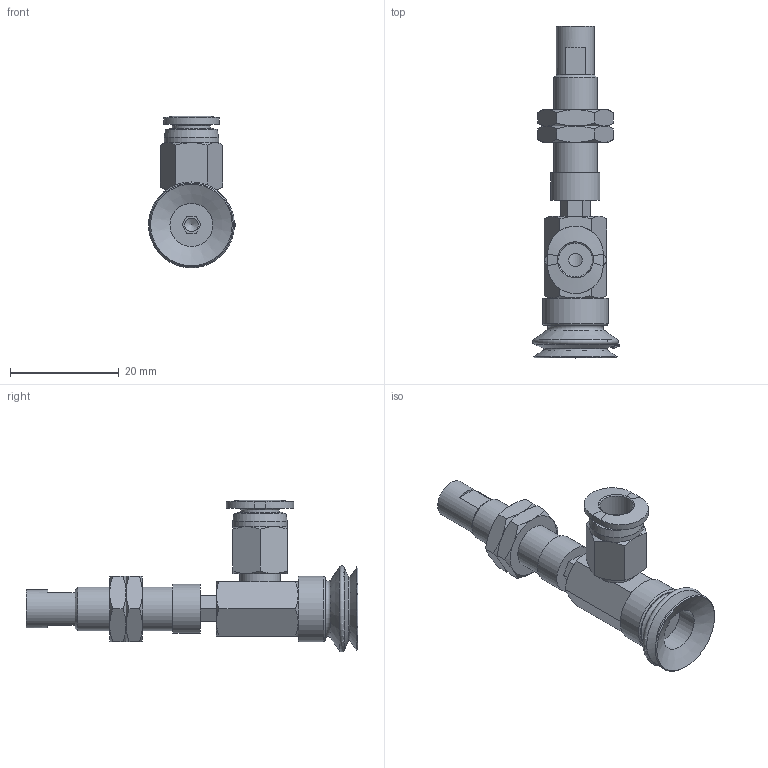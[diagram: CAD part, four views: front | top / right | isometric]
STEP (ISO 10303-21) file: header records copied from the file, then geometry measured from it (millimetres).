
FILE_DESCRIPTION(('STEP AP203'),'1');
FILE_NAME('-O.stp','2025-04-24T06:41:50',(' '),(' '),'Spatial InterOp 3D',' ',' ');
FILE_SCHEMA(('CONFIG_CONTROL_DESIGN'));
Length unit declared in the file: millimetre
Products named in the file (8): BNABPJYH-15-3-※-O; Adapter-15-NAPJ; CONNECTOR_H-15-3; NAPJH-15-3-NUT; NAPJTH-15-3-FBODY; NAPJTH-15-3-MBODY; BPJG-15-※; PC-C_06-M5
Assembly tree (8 placements, depth 2):
  BNABPJYH-15-3-※-O
    Adapter-15-NAPJ
    CONNECTOR_H-15-3
    NAPJH-15-3-NUT  x2
    NAPJTH-15-3-FBODY
    NAPJTH-15-3-MBODY
    BPJG-15-※
    PC-C_06-M5
Bounding box: 15.99 x 61 x 27.87 mm (x, y, z)
Volume: 4269.8 mm3; surface area: 5894.5 mm2
Topology: 7 solids, 10 shells, 215 faces, 464 edges, 280 vertices
Faces by surface type: plane 89, cone 74, cylinder 24, torus 11, bspline 10, sphere 4, revolution 3
Full cylindrical faces by diameter (mm): 2.5 x1, 4 x2, 4.134 x3, 4.6 x1, 5 x3, 7 x2, 7.188 x2, 7.4 x1, 7.9 x1, 8 x2, 8.2 x1, 9 x1, 10 x1, 12 x1
Entity records: 5910 total; most frequent: CARTESIAN_POINT 1742, DIRECTION 777, ORIENTED_EDGE 698, EDGE_CURVE 351, AXIS2_PLACEMENT_3D 326, EDGE_LOOP 269, VERTEX_POINT 241, FACE_OUTER_BOUND 162
